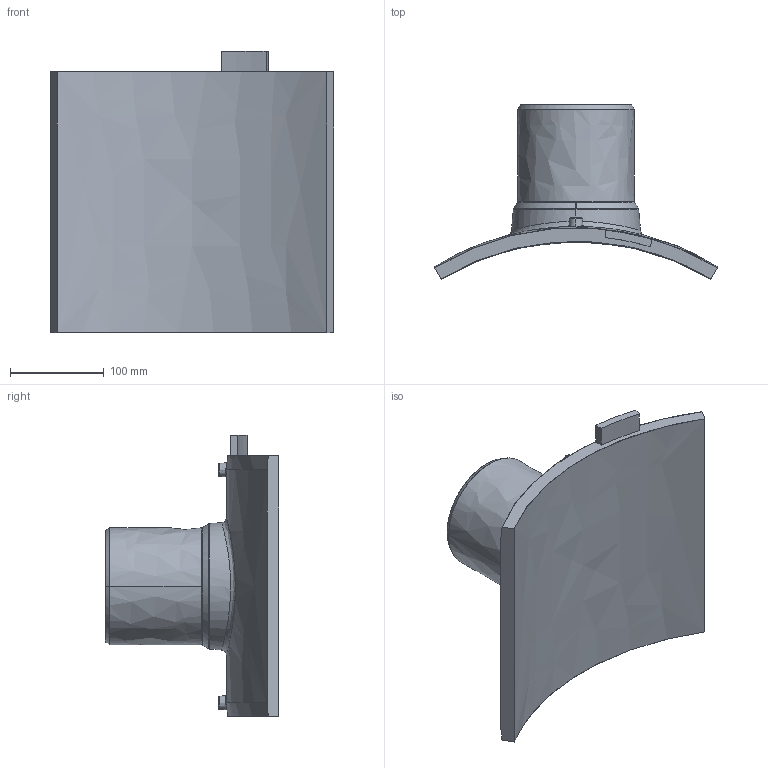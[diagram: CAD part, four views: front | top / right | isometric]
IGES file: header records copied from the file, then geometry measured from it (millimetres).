
Start section:  PTC IGES file: sa-uni_d560_125_01.igs
Global section: file name: sa-uni_d560_125_01.igs; native system: Pro/ENGINEER by Parametric Technology Corporation; preprocessor: 2011490; author: MikulicP; organization: Unknown; date: 20170206.145308; units: millimetre
Bounding box: 303.46 x 185.97 x 301 mm (x, y, z)
Surface area: 295543.7 mm2 (no closed solid volume)
Topology: 0 solids, 0 shells, 200 faces, 984 edges, 984 vertices
Faces by surface type: bspline 200
